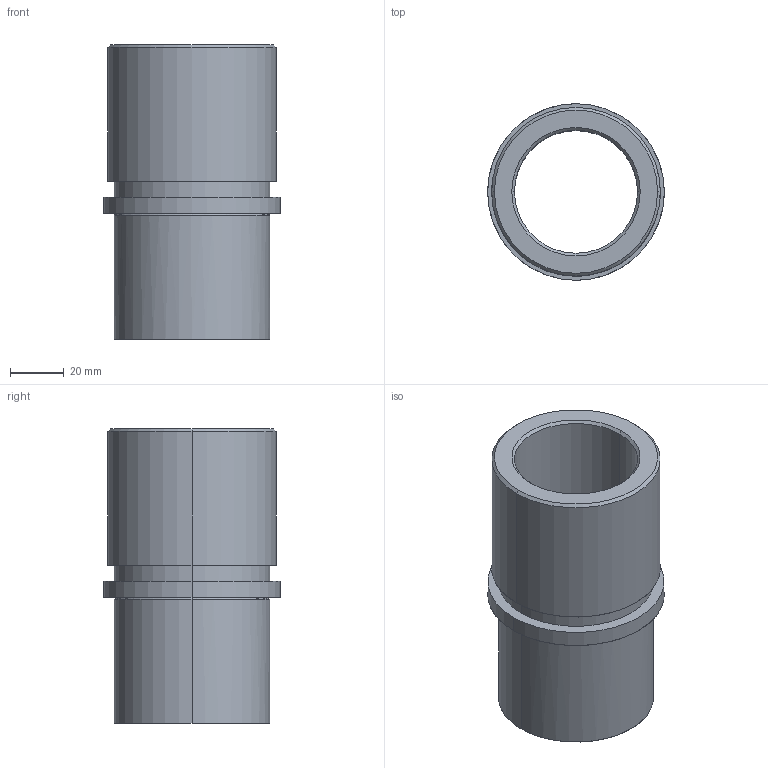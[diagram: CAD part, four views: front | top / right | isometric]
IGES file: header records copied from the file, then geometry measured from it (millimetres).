
Start section: START RECORD GO HERE.
Global section: file name: 734-38.igs; native system: DASSAULT SYSTEMES CATIA V5 R20 - www.3ds.com; preprocessor: CATIA Version 5 Release 20 ; author: Utente; organization: NB04-ASUS; date: 20210116.200259; units: millimetre
Bounding box: 66 x 66 x 110 mm (x, y, z)
Surface area: 41369.8 mm2 (no closed solid volume)
Topology: 0 solids, 0 shells, 25 faces, 100 edges, 100 vertices
Faces by surface type: revolution 20, plane 5
